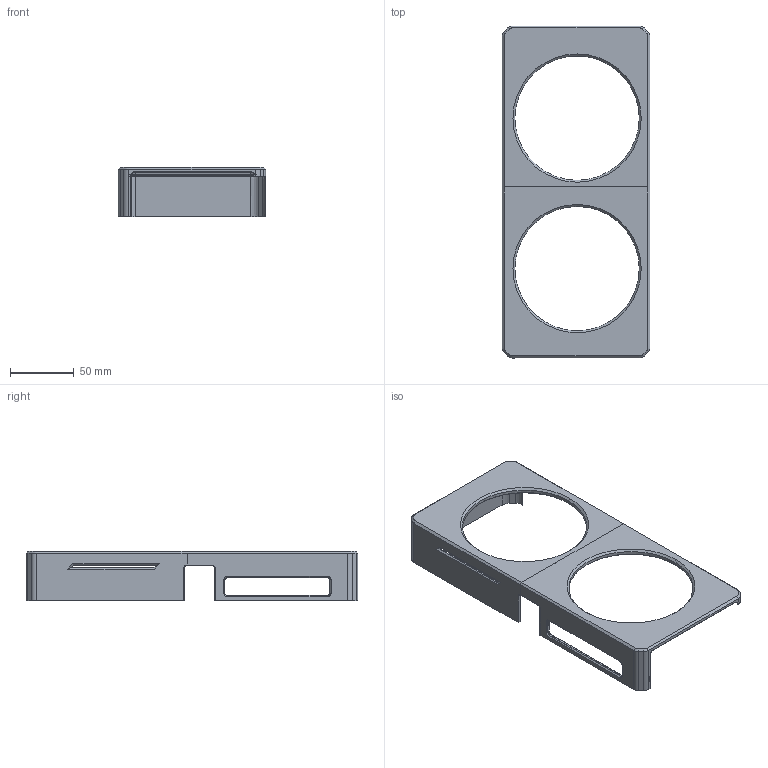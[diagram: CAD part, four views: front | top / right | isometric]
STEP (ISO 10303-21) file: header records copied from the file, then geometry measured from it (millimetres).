
FILE_DESCRIPTION((''),'2;1');
FILE_NAME('F330-1B0-COVER_FEEDBACK_DRAFT_2','2025-08-07T13:54:37',('Kate'),(''),'CREO PARAMETRIC BY PTC INC, 2021304','CREO PARAMETRIC BY PTC INC, 2021304','');
FILE_SCHEMA(('AUTOMOTIVE_DESIGN { 1 0 10303 214 1 1 1 1 }'));
Length unit declared in the file: millimetre
Products named in the file (1): F330-1B0-COVER_FEEDBACK_DRAFT_2
Bounding box: 115.7 x 260.2 x 39 mm (x, y, z)
Volume: 60166.3 mm3; surface area: 62420.9 mm2
Topology: 2 solids, 2 shells, 405 faces, 1074 edges, 672 vertices
Faces by surface type: plane 124, cylinder 99, torus 79, bspline 46, extrusion 33, cone 20, revolution 4
Entity records: 18152 total; most frequent: CARTESIAN_POINT 8152, ORIENTED_EDGE 2148, DIRECTION 1618, EDGE_CURVE 1074, VERTEX_POINT 672, COLOUR_RGB 641, AXIS2_PLACEMENT_3D 573, VECTOR 468
